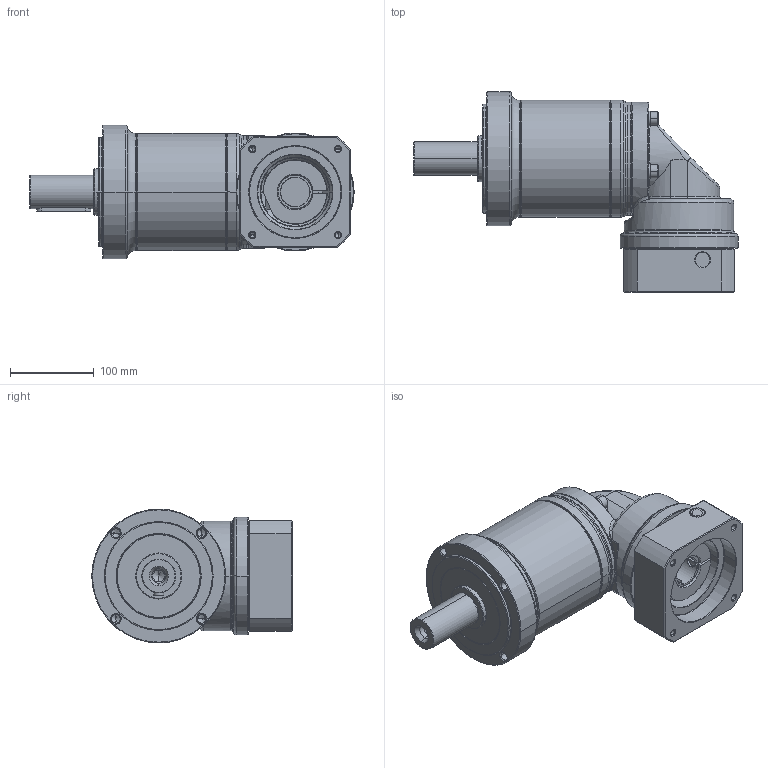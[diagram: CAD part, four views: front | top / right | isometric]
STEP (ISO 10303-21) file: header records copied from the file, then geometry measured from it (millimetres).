
FILE_DESCRIPTION((''),'2;1');
FILE_NAME('PG2R-160_2ST_35-P0411800101_ASM','2016-04-26T',('d01943'),(''),'PRO/ENGINEER BY PARAMETRIC TECHNOLOGY CORPORATION, 2008410','PRO/ENGINEER BY PARAMETRIC TECHNOLOGY CORPORATION, 2008410','');
FILE_SCHEMA(('CONFIG_CONTROL_DESIGN'));
Length unit declared in the file: millimetre
Products named in the file (12): P1325510001; P0251500001; P0350501103; P1349500001; P1017500001; P0713504001; P0503800010; P1350500401; P0411800101; P1702600001; 2111BA10040; PG2R-160_2ST_35-P0411800101_ASM
Assembly tree (14 placements, depth 2):
  PG2R-160_2ST_35-P0411800101_ASM
    P1325510001
    P0251500001
    P0350501103
    P1349500001
    P1017500001
    P0713504001
    P0503800010
    P1350500401
    P0411800101
    P1702600001
    2111BA10040  x4
Bounding box: 387.5 x 239.5 x 160 mm (x, y, z)
Volume: 3318270 mm3; surface area: 535652 mm2
Topology: 14 solids, 15 shells, 722 faces, 1585 edges, 918 vertices
Faces by surface type: cylinder 223, cone 200, plane 157, torus 110, bspline 32
Entity records: 23020 total; most frequent: CARTESIAN_POINT 9058, DIRECTION 3109, ORIENTED_EDGE 2694, EDGE_CURVE 1347, AXIS2_PLACEMENT_3D 1318, VERTEX_POINT 798, EDGE_LOOP 701, CIRCLE 701
